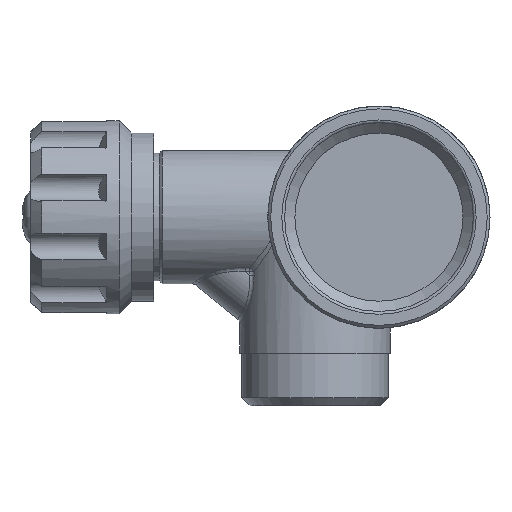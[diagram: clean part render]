
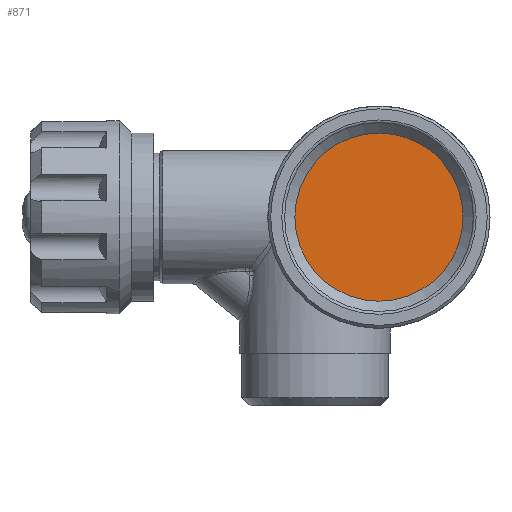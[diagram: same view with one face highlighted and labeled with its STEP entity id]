
A CAD part, front view. The second image highlights one B-rep face of the part: STEP entity #871.
In plain terms, the highlighted planar face has unit normal (0, -1, 0).
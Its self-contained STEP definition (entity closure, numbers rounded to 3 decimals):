
#871=ADVANCED_FACE('',(#10270),#10272,.T.);
#10270=FACE_BOUND('',#10271,.T.);
#10271=EDGE_LOOP('',(#17005));
#10272=PLANE('',#10273);
#10273=AXIS2_PLACEMENT_3D('',#10274,#10275,#10276);
#10274=CARTESIAN_POINT('',(0.,15.,0.));
#10275=DIRECTION('',(0.,-1.,0.));
#10276=DIRECTION('',(1.,0.,0.));
#17005=ORIENTED_EDGE('',*,*,#19985,.T.);
#19985=EDGE_CURVE('',#24120,#24120,#24121,.T.);
#24120=VERTEX_POINT('',#40101);
#24121=CIRCLE('',#40102,15.146);
#40101=CARTESIAN_POINT('',(15.146,15.,0.));
#40102=AXIS2_PLACEMENT_3D('',#40103,#40104,#40105);
#40103=CARTESIAN_POINT('',(0.,15.,0.));
#40104=DIRECTION('',(0.,-1.,0.));
#40105=DIRECTION('',(1.,0.,0.));
